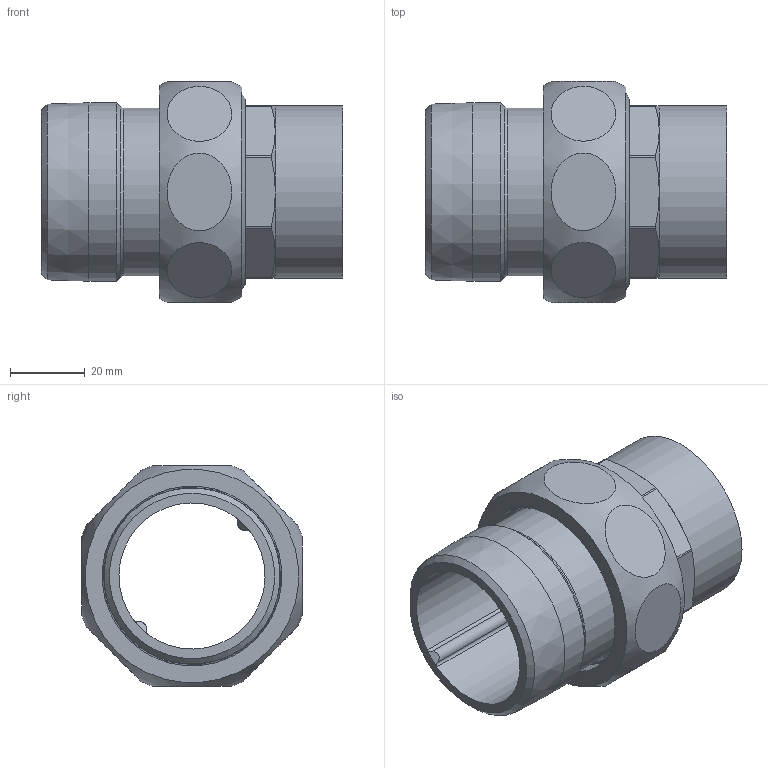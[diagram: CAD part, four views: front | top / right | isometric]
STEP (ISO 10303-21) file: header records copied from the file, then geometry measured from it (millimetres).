
FILE_DESCRIPTION((''),'2;1');
FILE_NAME('\\lg50001\SANHA_Legnica\Engineering\Public\RYSUNKI\SANHA POLSKA\4341g\inventor\14341g_42-112(1).stp','2014-08-25T14:46:14',('gomulka'),(''),'Autodesk Inventor 2009','Autodesk Inventor 2009','');
FILE_SCHEMA(('AUTOMOTIVE_DESIGN { 1 0 10303 214 1 1 1 1 }'));
Length unit declared in the file: millimetre
Products named in the file (4): 14341g_42-112(1); 14380_42-134(1); 14382_112-134(2); 14374_134(2)
Assembly tree (3 placements, depth 2):
  14341g_42-112(1)
    14380_42-134(1)
    14382_112-134(2)
    14374_134(2)
Bounding box: 80.41 x 59 x 59 mm (x, y, z)
Volume: 59919.4 mm3; surface area: 34966.1 mm2
Topology: 3 solids, 3 shells, 75 faces, 159 edges, 100 vertices
Faces by surface type: plane 33, cylinder 26, cone 12, bspline 3, torus 1
Full cylindrical faces by diameter (mm): 40 x1, 42 x1, 45 x1, 45.95 x1, 47.803 x1, 48 x1, 50 x1, 50.5 x1, 50.788 x1, 53.746 x1
Entity records: 3628 total; most frequent: CARTESIAN_POINT 2042, DIRECTION 312, ORIENTED_EDGE 266, AXIS2_PLACEMENT_3D 140, EDGE_CURVE 133, EDGE_LOOP 114, VERTEX_POINT 97, FACE_OUTER_BOUND 75
